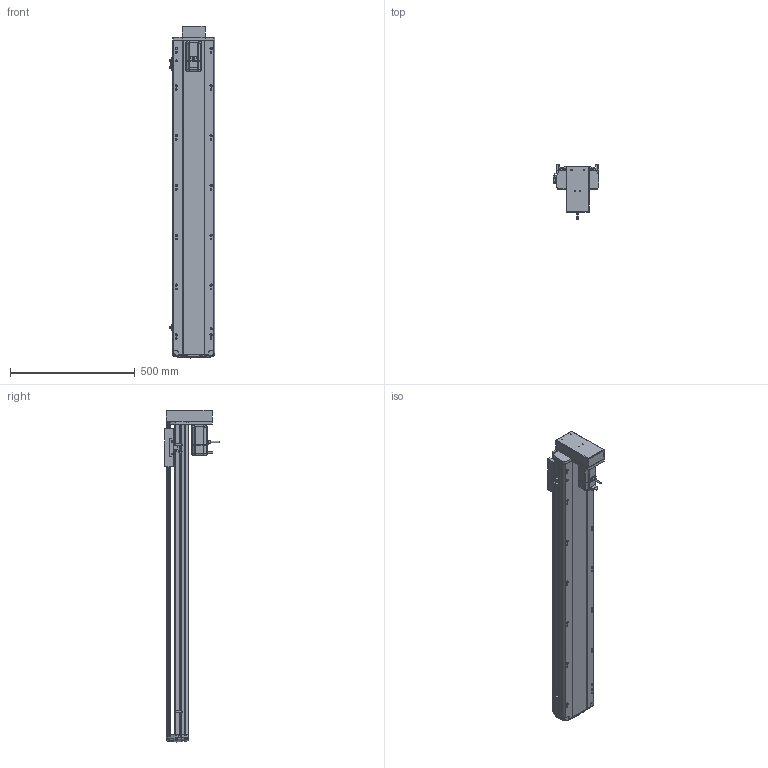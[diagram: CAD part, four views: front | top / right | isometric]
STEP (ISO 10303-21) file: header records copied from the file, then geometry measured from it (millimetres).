
FILE_DESCRIPTION (( 'STEP AP214' ), '1' );
FILE_NAME ('RTH17-XX-1050-M-M40-C4.STEP', '2025-10-24T09:09:11', ( '' ), ( '' ), 'SwSTEP 2.0', 'SolidWorks 2018', '' );
FILE_SCHEMA (( 'AUTOMOTIVE_DESIGN' ));
Length unit declared in the file: millimetre
Products named in the file (10): N_RTH17-M-011底座^RTH17-XX-XX-M-M40-C4（方程式）; N_RTH17-GY-001P^RTH17-XX-XX-M-M40-C4（方程式）; N_RTH17-M-007上盖^RTH17-XX-XX-M-M40-C4（方程式）; N_RTH17-M-008-P40电机安装板下折^RTH17-XX-XX-M-M40-C4（方程式）; RTH17-XX-1050-M-M40-C4; N_RTH-BL-012 感应片(外置)^RTH17-XX-XX-M-M40-C4（方程式）; N_OMRON EE-SX672 換覜ん^RTH17-XX-XX-M-M40-C4ㄗ源最宒ㄘ; N_RTH17-M-018盖子^RTH17-XX-XX-M-M40-C4（方程式）; N_RTH17-E-004丝杆螺母连接座^RTH17-XX-XX-M-M40-C4（方程式）; N_M40^RTH17-XX-XX-M-M40-C4（方程式）
Assembly tree (11 placements, depth 2):
  RTH17-XX-1050-M-M40-C4
    N_RTH17-M-011底座^RTH17-XX-XX-M-M40-C4（方程式）
    N_RTH17-M-007上盖^RTH17-XX-XX-M-M40-C4（方程式）
    N_M40^RTH17-XX-XX-M-M40-C4（方程式）
    N_OMRON EE-SX672 換覜ん^RTH17-XX-XX-M-M40-C4ㄗ源最宒ㄘ  x3
    N_RTH-BL-012 感应片(外置)^RTH17-XX-XX-M-M40-C4（方程式）
    N_RTH17-M-008-P40电机安装板下折^RTH17-XX-XX-M-M40-C4（方程式）
    N_RTH17-M-018盖子^RTH17-XX-XX-M-M40-C4（方程式）
    N_RTH17-E-004丝杆螺母连接座^RTH17-XX-XX-M-M40-C4（方程式）
    N_RTH17-GY-001P^RTH17-XX-XX-M-M40-C4（方程式）
Bounding box: 183.5 x 219 x 1333.19 mm (x, y, z)
Volume: 10228464.5 mm3; surface area: 1431917.9 mm2
Topology: 10 solids, 12 shells, 1679 faces, 4698 edges, 3064 vertices
Faces by surface type: plane 834, cylinder 478, bspline 330, cone 28, torus 9
Entity records: 49396 total; most frequent: CARTESIAN_POINT 19914, ORIENTED_EDGE 6420, DIRECTION 5290, EDGE_CURVE 3214, VERTEX_POINT 2100, LINE 1792, VECTOR 1792, AXIS2_PLACEMENT_3D 1749
